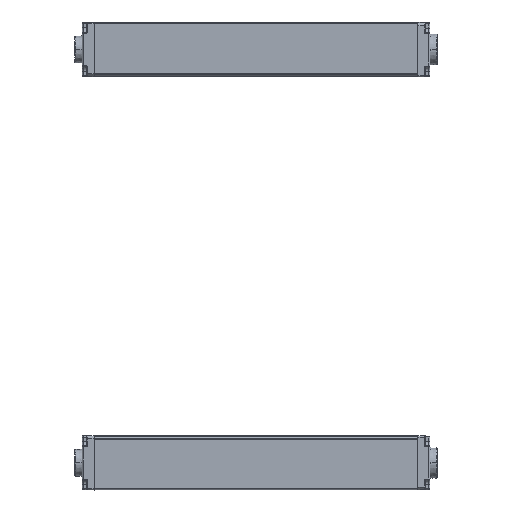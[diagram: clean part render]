
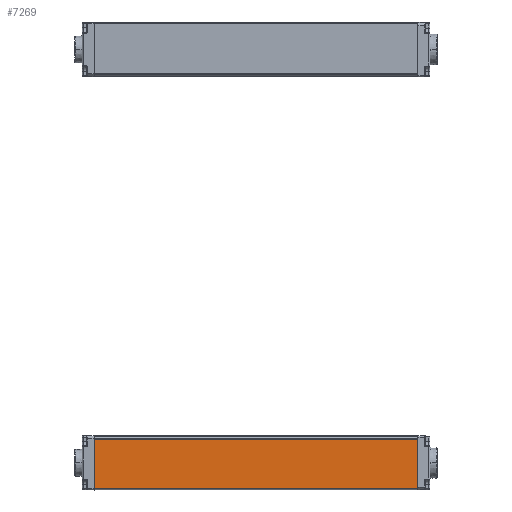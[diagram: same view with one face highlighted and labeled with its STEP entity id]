
A CAD part, left-side view. The second image highlights one B-rep face of the part: STEP entity #7269.
In plain terms, the highlighted planar face has unit normal (-1, 0, -0.009) as drawn and (1, 0, 0) by its records, which use the part's own axes.
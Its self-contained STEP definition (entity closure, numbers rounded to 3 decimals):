
#59 = EDGE_CURVE ( 'NONE', #16523, #11967, #17217, .T. ) ;
#1719 = VERTEX_POINT ( 'NONE', #14732 ) ;
#2462 = EDGE_CURVE ( 'NONE', #14134, #11967, #5347, .T. ) ;
#2487 = DIRECTION ( 'NONE',  ( -1., 0., 0. ) ) ;
#2528 = EDGE_CURVE ( 'NONE', #1719, #14134, #9712, .T. ) ;
#2614 = DIRECTION ( 'NONE',  ( 0., 1., 0. ) ) ;
#2651 = ORIENTED_EDGE ( 'NONE', *, *, #2528, .T. ) ;
#2797 = DIRECTION ( 'NONE',  ( 0., 0., -1. ) ) ;
#3777 = EDGE_LOOP ( 'NONE', ( #2651, #7295, #16025, #16745 ) ) ;
#3843 = FACE_OUTER_BOUND ( 'NONE', #3777, .T. ) ;
#4747 = CARTESIAN_POINT ( 'NONE',  ( 15., 180., -16.9 ) ) ;
#4859 = DIRECTION ( 'NONE',  ( 0., -1., 0. ) ) ;
#5347 = LINE ( 'NONE', #15094, #13571 ) ;
#5399 = VECTOR ( 'NONE', #4859, 1000. ) ;
#7269 = ADVANCED_FACE ( 'NONE', ( #3843 ), #9410, .F. ) ;
#7295 = ORIENTED_EDGE ( 'NONE', *, *, #2462, .T. ) ;
#8041 = DIRECTION ( 'NONE',  ( 0., 0., 1. ) ) ;
#8408 = CARTESIAN_POINT ( 'NONE',  ( 15., 180., 10.9 ) ) ;
#9410 = PLANE ( 'NONE',  #14265 ) ;
#9712 = LINE ( 'NONE', #15277, #11759 ) ;
#9936 = CARTESIAN_POINT ( 'NONE',  ( 15., 0., -16.693 ) ) ;
#10306 = DIRECTION ( 'NONE',  ( 0., 0., -1. ) ) ;
#10969 = VECTOR ( 'NONE', #10306, 1000. ) ;
#11708 = CARTESIAN_POINT ( 'NONE',  ( 15., 180., -16.693 ) ) ;
#11759 = VECTOR ( 'NONE', #2797, 1000. ) ;
#11782 = LINE ( 'NONE', #17328, #5399 ) ;
#11967 = VERTEX_POINT ( 'NONE', #11708 ) ;
#12372 = EDGE_CURVE ( 'NONE', #16523, #1719, #11782, .T. ) ;
#13571 = VECTOR ( 'NONE', #2614, 1000. ) ;
#14134 = VERTEX_POINT ( 'NONE', #9936 ) ;
#14265 = AXIS2_PLACEMENT_3D ( 'NONE', #14966, #2487, #8041 ) ;
#14732 = CARTESIAN_POINT ( 'NONE',  ( 15., 0., 10.9 ) ) ;
#14966 = CARTESIAN_POINT ( 'NONE',  ( 15., 180., -16.9 ) ) ;
#15094 = CARTESIAN_POINT ( 'NONE',  ( 15., 180., -16.693 ) ) ;
#15277 = CARTESIAN_POINT ( 'NONE',  ( 15., 0., -16.9 ) ) ;
#16025 = ORIENTED_EDGE ( 'NONE', *, *, #59, .F. ) ;
#16523 = VERTEX_POINT ( 'NONE', #8408 ) ;
#16745 = ORIENTED_EDGE ( 'NONE', *, *, #12372, .T. ) ;
#17217 = LINE ( 'NONE', #4747, #10969 ) ;
#17328 = CARTESIAN_POINT ( 'NONE',  ( 15., 180., 10.9 ) ) ;
